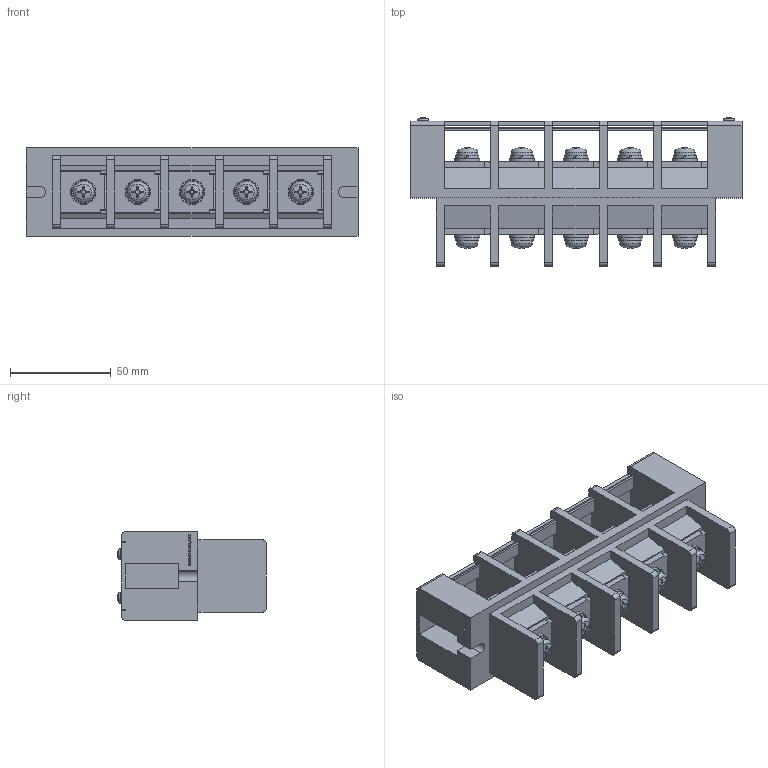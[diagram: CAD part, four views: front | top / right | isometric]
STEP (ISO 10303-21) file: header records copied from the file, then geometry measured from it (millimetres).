
FILE_DESCRIPTION(/* description */ ('Alibre Inc.'),/* implementation_level */ '2;1');
FILE_NAME(/* name */ 'export0',/* time_stamp */ '2016-04-05T18:11:30+09:00',/* author */ (''),/* organization */ (''),/* preprocessor_version */ 'ST-DEVELOPER v14',/* originating_system */ 'Alibre',/* authorisation */ '');
FILE_SCHEMA (('CONFIG_CONTROL_DESIGN'));
Length unit declared in the file: centimetre
Products named in the file (1): ID_1
Bounding box: 165 x 73.94 x 44 mm (x, y, z)
Volume: 187911.6 mm3; surface area: 87124.3 mm2
Topology: 7 solids, 9 shells, 873 faces, 2410 edges, 1571 vertices
Faces by surface type: plane 613, cylinder 126, cone 58, bspline 52, torus 12, sphere 12
Full cylindrical faces by diameter (mm): 3 x4, 5.5 x2, 6 x10, 8 x10, 10.5 x10, 12.5 x10
Entity records: 26352 total; most frequent: CARTESIAN_POINT 5466, ORIENTED_EDGE 4650, DIRECTION 3501, EDGE_CURVE 2325, VERTEX_POINT 1554, VECTOR 1510, LINE 1510, AXIS2_PLACEMENT_3D 1298
